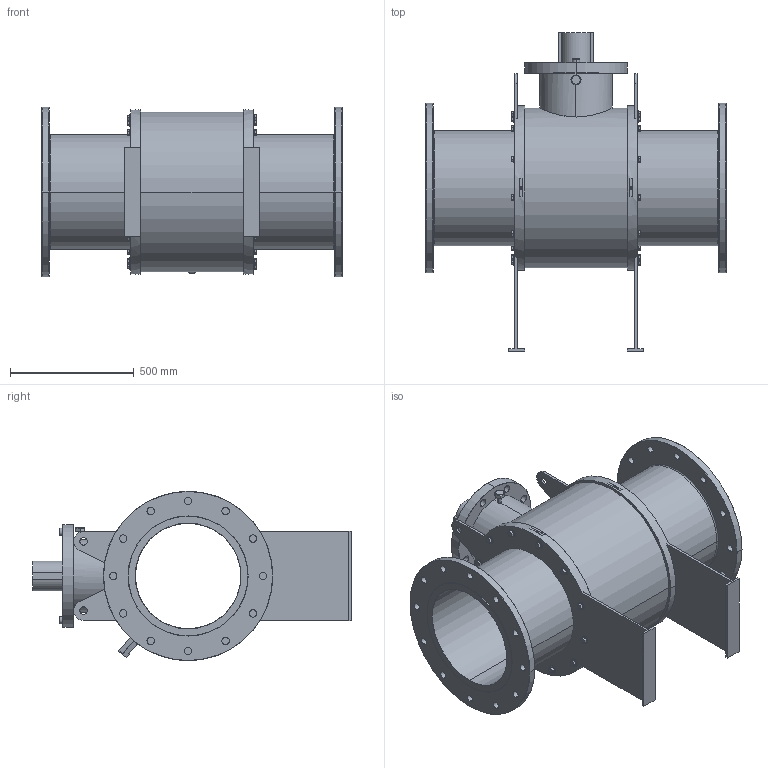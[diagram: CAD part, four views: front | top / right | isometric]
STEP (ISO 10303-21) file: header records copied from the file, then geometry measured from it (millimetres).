
FILE_DESCRIPTION (( 'STEP AP203' ), '1' );
FILE_NAME ('GB2_ANSI_900_18IN_TW.STEP', '2025-10-09T15:13:15', ( '' ), ( '' ), 'SwSTEP 2.0', 'SolidWorks 2025', '' );
FILE_SCHEMA (( 'CONFIG_CONTROL_DESIGN' ));
Length unit declared in the file: millimetre
Products named in the file (3): GB2_ANSI_900_18IN_TW; hex flange screw_am_B18.2.3.4M - Hex flange screw, M16 x 2.0 x 25 --25N; GB2_ANSI_2500_1500_ANSI_900_18IN
Assembly tree (25 placements, depth 2):
  GB2_ANSI_900_18IN_TW
    GB2_ANSI_2500_1500_ANSI_900_18IN
    hex flange screw_am_B18.2.3.4M - Hex flange screw, M16 x 2.0 x 25 --25N  x24
Bounding box: 1219 x 1288.5 x 685.5 mm (x, y, z)
Volume: 146017979.1 mm3; surface area: 6279523.3 mm2
Topology: 25 solids, 25 shells, 1041 faces, 2326 edges, 1392 vertices
Faces by surface type: plane 325, cone 270, cylinder 230, bspline 156, torus 54, sphere 6
Entity records: 13980 total; most frequent: CARTESIAN_POINT 3963, DIRECTION 2022, ORIENTED_EDGE 1792, EDGE_CURVE 896, AXIS2_PLACEMENT_3D 820, VERTEX_POINT 562, EDGE_LOOP 492, CIRCLE 436
